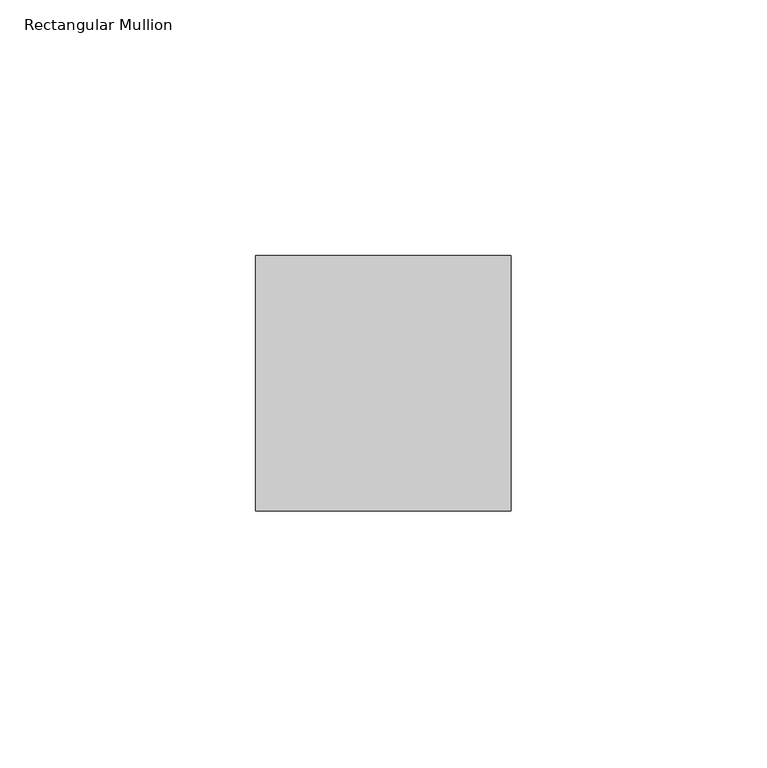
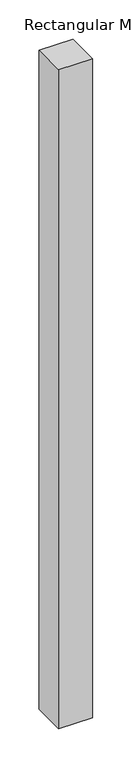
"""IFC4 building model written with IfcOpenShell, lengths in millimetres: member geometry, Rectangular Mullion : Mullion_Curtain Wall_Generic Showcase_50x50mm."""

from ifc_helpers import new_model, si_unit, frame, origin, place, context, project, spatial, polyline, outline, extrude, source, transform, mapped, element, save


def rectangular_mullion_a8c58242(model_context):
    return source(origin(), model_context, "Body", "SweptSolid", [
        extrude(outline(polyline([(0.0, 50.0), (0.0, 0.0), (-50.0, 0.0), (-50.0, 50.0), (0.0, 50.0)])), frame((0.0, 0.0, -1025.0), z_axis=(0.0, 0.0, 1.0), x_axis=(1.0, 0.0, 0.0)), (0.0, 0.0, 1.0), 1025.0),
    ])


if __name__ == "__main__":
    model = new_model("IFC4")
    model_context = context("Model", 3, world=origin())
    ifc_project = project(units=[si_unit("LENGTHUNIT", "METRE", prefix="MILLI")], contexts=[model_context])
    site = spatial("IfcSite", under=ifc_project)
    building = spatial("IfcBuilding", under=site)
    placement = place(None, origin())
    rectangular_mullion_shape = rectangular_mullion_a8c58242(model_context)
    element("IfcMember", 1, ObjectType="Rectangular Mullion : Mullion_Curtain Wall_Generic Showcase_50x50mm", at=placement, inside=building, context=model_context, shape_type="MappedRepresentation", body=[
        mapped(rectangular_mullion_shape, transform((0.0, 0.0, 0.0), x_axis=(1.0, 0.0, 0.0), y_axis=(0.0, 1.0, 0.0), z_axis=(0.0, 0.0, 1.0))),
    ])
    save(model, "model.ifc")
